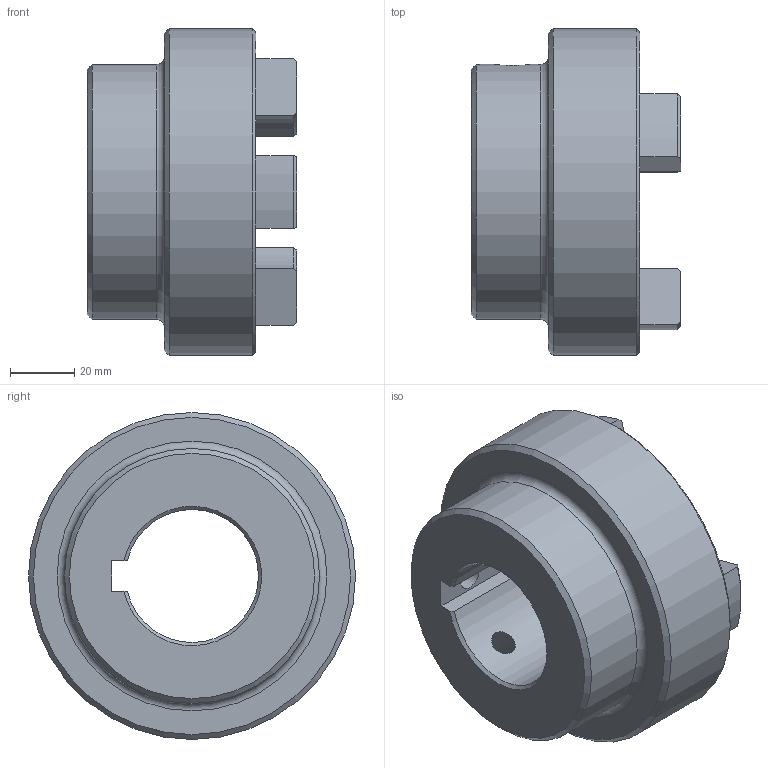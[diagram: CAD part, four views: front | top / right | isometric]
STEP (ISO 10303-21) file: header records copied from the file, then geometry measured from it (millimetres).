
FILE_DESCRIPTION (( 'STEP AP203' ), '1' );
FILE_NAME ('RC4.step', '2024-07-24T17:46:12', ( 'Adlan' ), ( '' ), 'SwSTEP 2.0', 'SolidWorks 2013', '' );
FILE_SCHEMA (( 'CONFIG_CONTROL_DESIGN' ));
Length unit declared in the file: inch
Products named in the file (1): RC4
Bounding box: 65.02 x 101.6 x 101.6 mm (x, y, z)
Volume: 226537.8 mm3; surface area: 41355.9 mm2
Topology: 1 solids, 1 shells, 67 faces, 168 edges, 105 vertices
Faces by surface type: cylinder 26, plane 16, torus 13, cone 12
Full cylindrical faces by diameter (mm): 7.937 x2, 79.248 x1, 101.6 x1
Entity records: 2277 total; most frequent: CARTESIAN_POINT 602, DIRECTION 354, ORIENTED_EDGE 310, EDGE_CURVE 155, AXIS2_PLACEMENT_3D 142, VERTEX_POINT 102, EDGE_LOOP 85, CIRCLE 74
